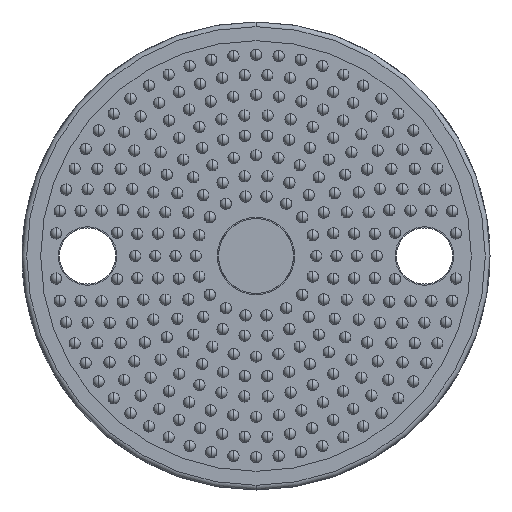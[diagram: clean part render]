
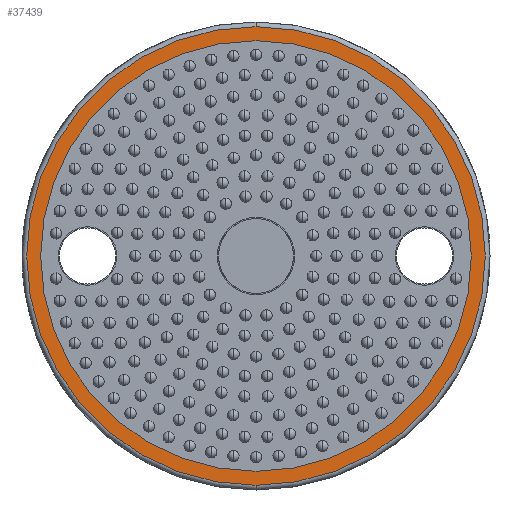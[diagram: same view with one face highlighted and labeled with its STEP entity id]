
A CAD part, front view. The second image highlights one B-rep face of the part: STEP entity #37439.
In plain terms, the highlighted planar face has unit normal (0, -1, 0).
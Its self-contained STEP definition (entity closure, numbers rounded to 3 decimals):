
#686 = AXIS2_PLACEMENT_3D ( 'NONE', #1150, #7610, #14313 ) ;
#1150 = CARTESIAN_POINT ( 'NONE',  ( 0., 0., 0. ) ) ;
#1763 = EDGE_CURVE ( 'NONE', #20557, #38213, #25582, .T. ) ;
#1876 = AXIS2_PLACEMENT_3D ( 'NONE', #7358, #20475, #33212 ) ;
#3260 = VERTEX_POINT ( 'NONE', #6416 ) ;
#5280 = VERTEX_POINT ( 'NONE', #8032 ) ;
#5637 = ORIENTED_EDGE ( 'NONE', *, *, #7350, .T. ) ;
#5699 = PLANE ( 'NONE',  #27008 ) ;
#6290 = DIRECTION ( 'NONE',  ( 0., 0., -1. ) ) ;
#6416 = CARTESIAN_POINT ( 'NONE',  ( 0., 0., 49. ) ) ;
#6441 = CIRCLE ( 'NONE', #686, 49. ) ;
#7350 = EDGE_CURVE ( 'NONE', #5280, #3260, #6441, .T. ) ;
#7358 = CARTESIAN_POINT ( 'NONE',  ( 0., 0., 0. ) ) ;
#7610 = DIRECTION ( 'NONE',  ( 0., -1., 0. ) ) ;
#7724 = CARTESIAN_POINT ( 'NONE',  ( 0., 0., -46. ) ) ;
#8032 = CARTESIAN_POINT ( 'NONE',  ( 0., 0., -49. ) ) ;
#8910 = CARTESIAN_POINT ( 'NONE',  ( -44.5, 0., 0. ) ) ;
#9183 = EDGE_CURVE ( 'NONE', #3260, #5280, #39823, .T. ) ;
#9313 = CARTESIAN_POINT ( 'NONE',  ( 0., 0., 46. ) ) ;
#11743 = ORIENTED_EDGE ( 'NONE', *, *, #1763, .F. ) ;
#14313 = DIRECTION ( 'NONE',  ( 0., 0., -1. ) ) ;
#15914 = DIRECTION ( 'NONE',  ( 0., -1., 0. ) ) ;
#16894 = DIRECTION ( 'NONE',  ( 0., -1., 0. ) ) ;
#17391 = EDGE_LOOP ( 'NONE', ( #5637, #18072 ) ) ;
#18072 = ORIENTED_EDGE ( 'NONE', *, *, #9183, .T. ) ;
#18441 = AXIS2_PLACEMENT_3D ( 'NONE', #29935, #16894, #6290 ) ;
#18567 = CIRCLE ( 'NONE', #18441, 46. ) ;
#20475 = DIRECTION ( 'NONE',  ( 0., -1., 0. ) ) ;
#20557 = VERTEX_POINT ( 'NONE', #9313 ) ;
#21958 = AXIS2_PLACEMENT_3D ( 'NONE', #38538, #15914, #35165 ) ;
#22019 = FACE_OUTER_BOUND ( 'NONE', #17391, .T. ) ;
#25582 = CIRCLE ( 'NONE', #1876, 46. ) ;
#27008 = AXIS2_PLACEMENT_3D ( 'NONE', #8910, #40591, #40734 ) ;
#29935 = CARTESIAN_POINT ( 'NONE',  ( 0., 0., 0. ) ) ;
#32070 = FACE_BOUND ( 'NONE', #38260, .T. ) ;
#33212 = DIRECTION ( 'NONE',  ( 0., 0., -1. ) ) ;
#35165 = DIRECTION ( 'NONE',  ( 0., 0., -1. ) ) ;
#37328 = EDGE_CURVE ( 'NONE', #38213, #20557, #18567, .T. ) ;
#37439 = ADVANCED_FACE ( 'NONE', ( #22019, #32070 ), #5699, .T. ) ;
#38213 = VERTEX_POINT ( 'NONE', #7724 ) ;
#38260 = EDGE_LOOP ( 'NONE', ( #11743, #40837 ) ) ;
#38538 = CARTESIAN_POINT ( 'NONE',  ( 0., 0., 0. ) ) ;
#39823 = CIRCLE ( 'NONE', #21958, 49. ) ;
#40591 = DIRECTION ( 'NONE',  ( 0., -1., 0. ) ) ;
#40734 = DIRECTION ( 'NONE',  ( 0., 0., -1. ) ) ;
#40837 = ORIENTED_EDGE ( 'NONE', *, *, #37328, .F. ) ;
